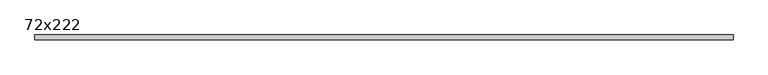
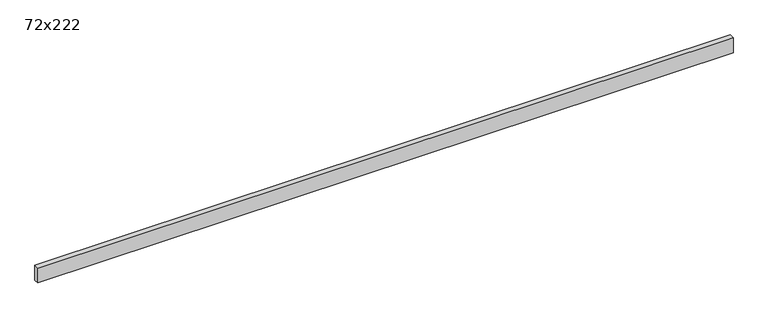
"""IFC4 building model written with IfcOpenShell, lengths in millimetres: beam geometry, C&L poutre bois : 72x222."""

from ifc_helpers import new_model, si_unit, frame, origin, place, context, project, spatial, polyline, outline, extrude, source, transform, mapped, element, save


def beam_72x222_c2e40c8c(model_context):
    return source(origin(), model_context, "Body", "SweptSolid", [
        extrude(outline(polyline([(4977.5, -36.0), (-4977.5, -36.0), (-4977.5, 36.0), (4977.5, 36.0), (4977.5, -36.0)])), frame((0.0, 0.0, -112.5), z_axis=(0.0, 0.0, 1.0), x_axis=(1.0, 0.0, 0.0)), (0.0, 0.0, 1.0), 225.0),
    ])


if __name__ == "__main__":
    model = new_model("IFC4")
    model_context = context("Model", 3, world=origin())
    ifc_project = project(units=[si_unit("LENGTHUNIT", "METRE", prefix="MILLI")], contexts=[model_context])
    site = spatial("IfcSite", under=ifc_project)
    building = spatial("IfcBuilding", under=site)
    placement = place(None, origin())
    beam_72x222_shape = beam_72x222_c2e40c8c(model_context)
    element("IfcBeam", 1, ObjectType="C&L poutre bois : 72x222", at=placement, inside=building, context=model_context, shape_type="MappedRepresentation", body=[
        mapped(beam_72x222_shape, transform((0.0, 0.0, 0.0), x_axis=(1.0, 0.0, 0.0), y_axis=(0.0, 1.0, 0.0), z_axis=(0.0, 0.0, 1.0))),
    ])
    save(model, "model.ifc")
